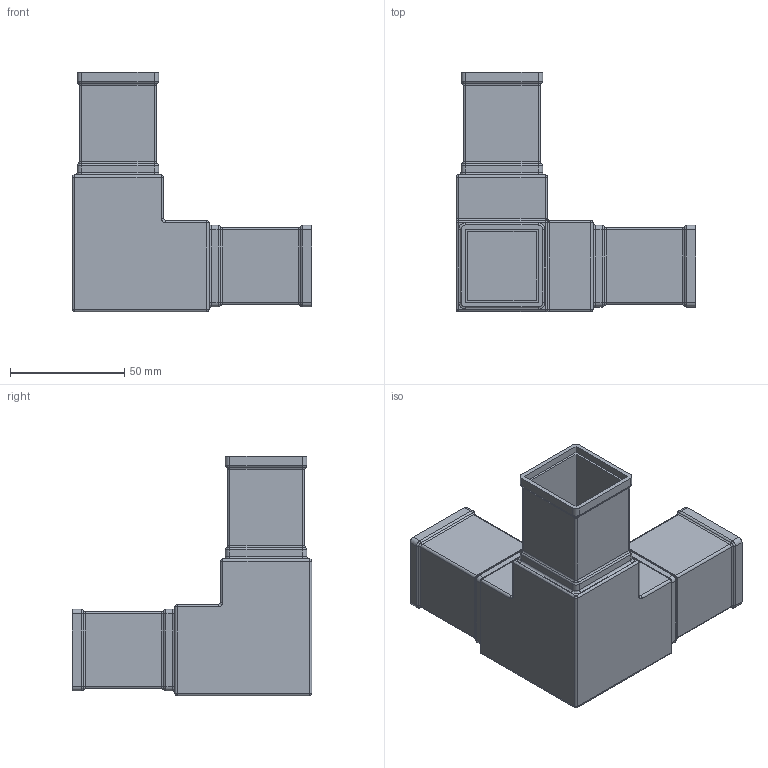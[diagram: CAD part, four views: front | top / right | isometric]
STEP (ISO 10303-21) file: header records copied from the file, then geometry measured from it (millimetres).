
FILE_DESCRIPTION (( 'STEP AP214' ), '1' );
FILE_NAME ('115.301.204.STEP', '2023-05-16T07:43:53', ( '' ), ( '' ), 'SwSTEP 2.0', 'SolidWorks 2021', '' );
FILE_SCHEMA (( 'AUTOMOTIVE_DESIGN' ));
Length unit declared in the file: millimetre
Products named in the file (1): 115.301.204
Bounding box: 105 x 105 x 105 mm (x, y, z)
Volume: 59188.4 mm3; surface area: 65481.5 mm2
Topology: 1 solids, 1 shells, 308 faces, 673 edges, 365 vertices
Faces by surface type: cylinder 123, plane 105, bspline 80
Entity records: 9265 total; most frequent: CARTESIAN_POINT 2824, DIRECTION 1361, ORIENTED_EDGE 1320, EDGE_CURVE 660, AXIS2_PLACEMENT_3D 496, VECTOR 369, LINE 369, VERTEX_POINT 365
